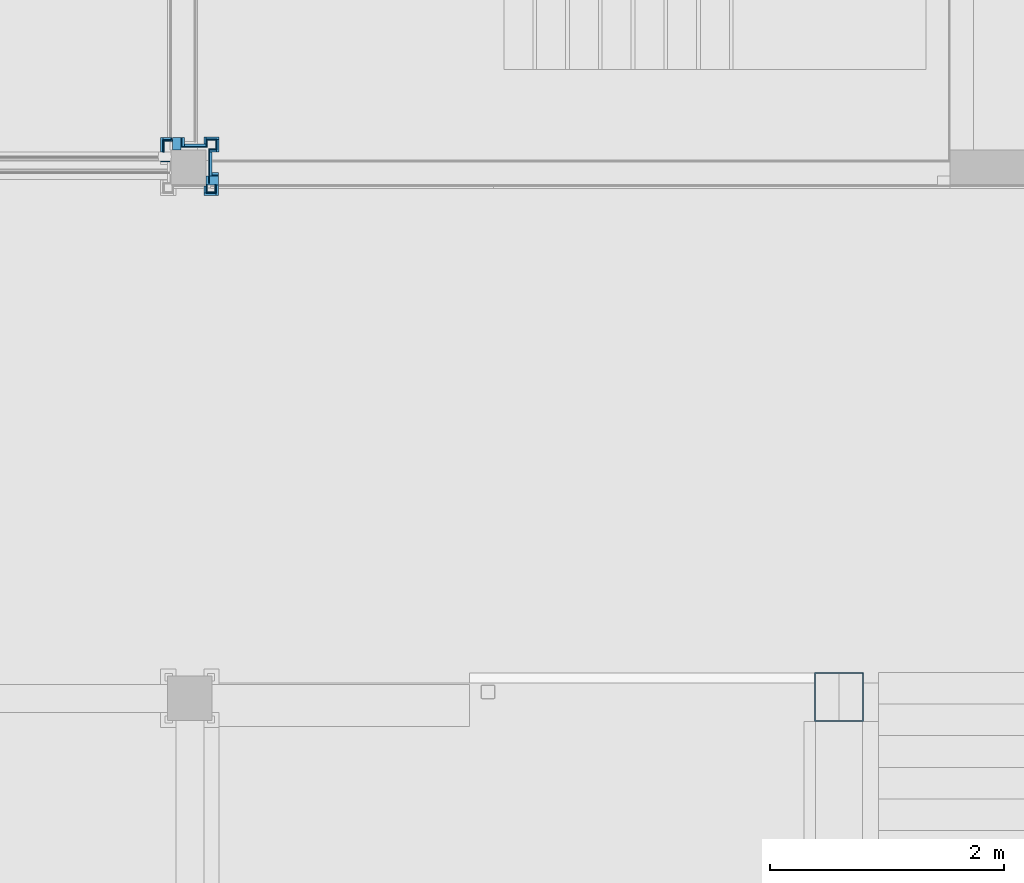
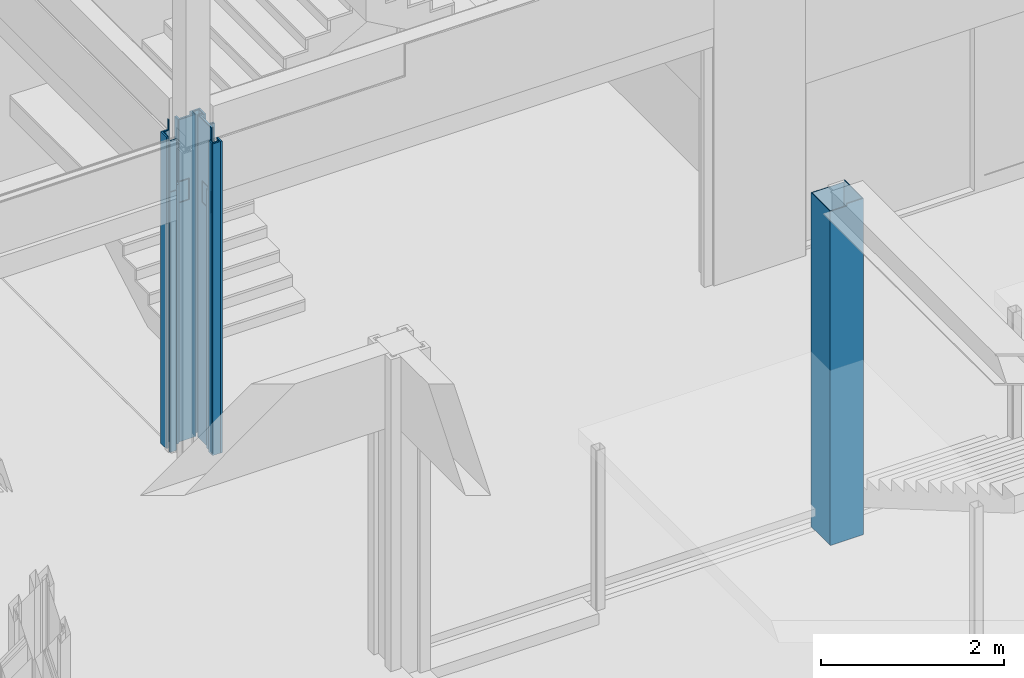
# One storey, part 144 of 260: 28 building element parts, 2 discrete accessories, 15 elements without a shape of their own.
"""IFC2X3 building model written with IfcOpenShell, lengths in millimetres."""

from ifc_helpers import new_model, entity, si_unit, converted_unit, derived_unit, money_unit, direction, frame, origin_with_axes, place, context, subcontext, project, spatial, faceted_brep, material, type_object, element, aggregate, save


model = new_model("IFC2X3")

# Units and contexts
model_context = context("Model", 3, precision=0.01, world=origin_with_axes(), true_north=direction((0.0, 1.0)))
body_context = subcontext(model_context, "Body", "Model", "MODEL_VIEW")
ifc_project = project(units=[si_unit("LENGTHUNIT", "METRE", prefix="MILLI"), si_unit("AREAUNIT", "SQUARE_METRE"), si_unit("VOLUMEUNIT", "CUBIC_METRE"), converted_unit("PLANEANGLEUNIT", "DEGREE", entity("IfcPlaneAngleMeasure", 0.0174532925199), si_unit("PLANEANGLEUNIT", "RADIAN"), dimensions=[0, 0, 0, 0, 0, 0, 0]), money_unit("EUR"), converted_unit("TIMEUNIT", "Year", entity("IfcTimeMeasure", 31556926.0), si_unit("TIMEUNIT", "SECOND"), dimensions=[0, 0, 1, 0, 0, 0, 0]), si_unit("MASSUNIT", "GRAM", prefix="KILO"), si_unit("THERMODYNAMICTEMPERATUREUNIT", "DEGREE_CELSIUS"), si_unit("LUMINOUSINTENSITYUNIT", "LUMEN"), si_unit("ENERGYUNIT", "JOULE", prefix="MEGA"), derived_unit("THERMALCONDUCTANCEUNIT", [(si_unit("POWERUNIT", "WATT"), 1), (si_unit("LENGTHUNIT", "METRE"), -1), (si_unit("THERMODYNAMICTEMPERATUREUNIT", "KELVIN"), -1)]), derived_unit("SPECIFICHEATCAPACITYUNIT", [(si_unit("ENERGYUNIT", "JOULE"), 1), (si_unit("MASSUNIT", "GRAM", prefix="KILO"), -1), (si_unit("THERMODYNAMICTEMPERATUREUNIT", "KELVIN"), -1)]), derived_unit("MASSDENSITYUNIT", [(si_unit("MASSUNIT", "GRAM", prefix="KILO"), 1), (si_unit("VOLUMEUNIT", "CUBIC_METRE"), -1)])], contexts=[model_context])

# Site, building, storey
site_placement = place(None, origin_with_axes())
site = spatial("IfcSite", under=ifc_project, at=site_placement, Name="Kolde pst 67a", CompositionType="ELEMENT")
building_placement = place(site_placement, origin_with_axes())
building = spatial("IfcBuilding", under=site, at=building_placement, Name="Riigigümnaasium", CompositionType="ELEMENT")
storey_placement = place(building_placement, origin_with_axes())
storey = spatial("IfcBuildingStorey", under=building, at=storey_placement, Name="1. korrus", CompositionType="ELEMENT", Elevation=0.0)

# Discrete accessories
ifc_material_1 = material(Name="_METALL - teras")
discrete_accessory_type = type_object("IfcDiscreteAccessoryType", Name="_METALL - teras 74 x 105")
discrete_accessory_1_placement = place(storey_placement, frame((52972.4941222, 28656.999656, 0.0), z_axis=(0.0, 0.0, 1.0), x_axis=(0.0, -1.0, 0.0)))
element("IfcDiscreteAccessory", 1, at=discrete_accessory_1_placement, inside=storey, type_object=discrete_accessory_type, material=ifc_material_1, Name="Tuletõkke kardin", context=body_context, shape_type="Brep", body=[
    faceted_brep([(-37.0, -52.5, 3470.0), (-37.0, -52.5, 0.0), (37.0, -52.5, 0.0), (37.0, -52.5, 3470.0), (-37.0, 52.5, 3470.0), (-37.0, 52.5, 0.0), (37.0, 52.5, 0.0), (37.0, 52.5, 3470.0)], [[[0, 1, 2, 3]], [[4, 5, 1, 0]], [[2, 1, 5, 6]], [[3, 2, 6, 7]], [[4, 0, 3, 7]], [[7, 6, 5, 4]]]),
])
discrete_accessory_2_placement = place(storey_placement, frame((52666.9941222, 28972.499656, 0.0), z_axis=(0.0, 0.0, 1.0), x_axis=(1.0, 0.0, 0.0)))
element("IfcDiscreteAccessory", 2, at=discrete_accessory_2_placement, inside=storey, type_object=discrete_accessory_type, material=ifc_material_1, Name="Tuletõkke kardin", context=body_context, shape_type="Brep", body=[
    faceted_brep([(37.0, 52.5, 3470.0), (37.0, 52.5, 0.0), (-37.0, 52.5, 0.0), (-37.0, 52.5, 3470.0), (37.0, -52.5, 3470.0), (37.0, -52.5, 0.0), (-37.0, -52.5, 0.0), (-37.0, -52.5, 3470.0)], [[[0, 1, 2, 3]], [[4, 5, 1, 0]], [[2, 1, 5, 6]], [[3, 2, 6, 7]], [[4, 0, 3, 7]], [[7, 6, 5, 4]]]),
])

# Column, building element part
column_type = type_object("IfcColumnType", Name="_KANDETARIND - raudbetoon C25/30 vastavalt EK osale 420 x 420", PredefinedType="COLUMN")
column_placement = place(storey_placement, frame((58329.9488577, 24240.2738336, -300.0), z_axis=(0.0, 0.0, 1.0), x_axis=(1.0, 0.0, 0.0)))
column = element("IfcColumn", 3, at=column_placement, inside=storey, type_object=column_type, Name="POST", ObjectType="COLUMN")
ifc_material_2 = material(Name="_VIIMISTLUSKIHT - puit")
building_element_part_1_placement = place(column_placement, origin_with_axes())
building_element_part_1 = element("IfcBuildingElementPart", 4, at=building_element_part_1_placement, material=ifc_material_2, Name="_VIIMISTLUSKIHT - puit", context=body_context, shape_type="Brep", body=[
    faceted_brep([(-210.0, 210.0, 4470.0), (210.0, 210.0, 4470.0), (210.0, 210.0, 0.0), (-210.0, 210.0, 0.0), (210.0, 199.726141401, 4470.0), (-210.0, -210.0, 4470.0), (1.90022433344e-05, -210.0, 4470.0), (1.90022433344e-05, -199.999997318, 4470.0), (-199.999997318, -199.999997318, 4470.0), (-199.999997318, 199.999997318, 4470.0), (199.999997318, 199.999997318, 4470.0), (199.999997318, 199.726141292, 4470.0), (210.0, 199.726217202, 4500.0), (210.0, -210.0, 4500.0), (210.0, -210.0, 0.0), (-210.0, -210.0, 0.0), (-199.999997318, 199.999997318, 0.0), (-199.999997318, -199.999997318, 0.0), (199.999997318, -199.999997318, 0.0), (199.999997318, 199.999997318, 0.0), (8.10390758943e-05, -210.0, 4500.0), (8.10855809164e-05, -199.999997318, 4500.0), (199.999997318, -199.999997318, 4500.0), (199.999997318, 199.726217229, 4500.0)], [[[0, 1, 2, 3]], [[4, 1, 0, 5, 6, 7, 8, 9, 10, 11]], [[4, 12, 13, 14, 2, 1]], [[15, 3, 2, 14], [16, 17, 18, 19]], [[5, 0, 3, 15]], [[6, 5, 15, 14, 13, 20]], [[20, 21, 7, 6]], [[7, 21, 22, 18, 17, 8]], [[9, 8, 17, 16]], [[10, 9, 16, 19]], [[11, 10, 19, 18, 22, 23]], [[23, 12, 4, 11]], [[21, 20, 13, 12, 23, 22]]]),
])
aggregate(column, [building_element_part_1])

# Wall, building element parts
wall_type = type_object("IfcWallType", Name="SS-MK-1/1_1x dold pinnakiht 30", PredefinedType="NOTDEFINED")
wall_1_placement = place(storey_placement, frame((52929.9941247, 28559.999656, 0.0), z_axis=(0.0, 0.0, 1.0), x_axis=(0.0, 1.0, 0.0)))
wall_1 = element("IfcWall", 5, at=wall_1_placement, inside=storey, type_object=wall_type, Name="Sisesein")
ifc_material_3 = material(Name="_VIIMISTLUSKIHT - Dold plaat vastavalt SA osale")
building_element_part_2_placement = place(wall_1_placement, origin_with_axes())
building_element_part_2 = element("IfcBuildingElementPart", 6, at=building_element_part_2_placement, material=ifc_material_3, Name="_VIIMISTLUSKIHT - Dold plaat vastavalt SA osale", context=body_context, shape_type="Brep", body=[
    faceted_brep([(50.0, 30.0, 0.0), (50.0, 30.0, 4170.0), (50.0, 10.0, 4170.0), (50.0, 10.0, 0.0), (-10.0, 30.0, 0.0), (-10.0, 30.0, 4170.0), (-10.0, 10.0, 4170.0), (-10.0, 10.0, 0.0)], [[[0, 1, 2, 3]], [[4, 5, 1, 0]], [[5, 6, 2, 1]], [[3, 2, 6, 7]], [[4, 0, 3, 7]], [[7, 6, 5, 4]]]),
])
ifc_material_4 = material(Name="_KARKASS - eriprofiilkinnitus vastavalt sisemisele plaatviimistlusele")
building_element_part_3_placement = place(wall_1_placement, origin_with_axes())
building_element_part_3 = element("IfcBuildingElementPart", 7, at=building_element_part_3_placement, material=ifc_material_4, Name="_KARKASS - eriprofiilkinnitus vastavalt sisemisele plaatviimistlusele", context=body_context, shape_type="Brep", body=[
    faceted_brep([(45.0000013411, 0.0, 3200.0), (34.999999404, 0.0, 3200.0), (34.999999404, 0.0, 3490.0), (60.0, 0.0, 3490.0), (60.0, 0.0, 4170.0), (0.0, 0.0, 4170.0), (0.0, 0.0, 0.0), (60.0, 0.0, 0.0), (60.0, 0.0, 3479.99999806), (45.0000013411, 0.0, 3479.99999806), (34.999999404, 10.0000025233, 3200.0), (45.0000013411, 10.0000025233, 3200.0), (34.999999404, 10.0000025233, 3490.0), (60.0, 10.0000025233, 3490.0), (60.0, 10.0, 4170.0), (0.0, 10.0, 4170.0), (0.0, 10.0, 0.0), (60.0, 10.0, 0.0), (60.0, 10.0000025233, 3479.99999806), (45.0000013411, 10.0000025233, 3479.99999806)], [[[0, 1, 2, 3, 4, 5, 6, 7, 8, 9]], [[10, 1, 0, 11]], [[12, 2, 1, 10]], [[12, 13, 3, 2]], [[4, 3, 13, 14]], [[14, 15, 5, 4]], [[16, 6, 5, 15]], [[6, 16, 17, 7]], [[17, 18, 8, 7]], [[19, 9, 8, 18]], [[11, 0, 9, 19]], [[11, 19, 18, 17, 16, 15, 14, 13, 12, 10]]]),
])
aggregate(wall_1, [building_element_part_2, building_element_part_3])

wall_2_placement = place(storey_placement, frame((52994.9941222, 28559.999656, 0.0), z_axis=(0.0, 0.0, 1.0), x_axis=(-1.0, 0.0, 0.0)))
wall_2 = element("IfcWall", 8, at=wall_2_placement, inside=storey, type_object=wall_type, Name="Sisesein")
building_element_part_4_placement = place(wall_2_placement, origin_with_axes())
building_element_part_4 = element("IfcBuildingElementPart", 9, at=building_element_part_4_placement, material=ifc_material_3, Name="_VIIMISTLUSKIHT - Dold plaat vastavalt SA osale", context=body_context, shape_type="Brep", body=[
    faceted_brep([(94.9999974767, 10.0, 4170.0), (-10.0, 10.0, 4170.0), (-10.0, 10.0, 0.0), (94.9999974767, 10.0, 0.0), (-10.0, 30.0, 4170.0), (94.9999974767, 30.0, 4170.0), (-10.0, 30.0, 0.0), (94.9999974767, 30.0, 0.0)], [[[0, 1, 2, 3]], [[4, 1, 0, 5]], [[1, 4, 6, 2]], [[7, 3, 2, 6]], [[5, 0, 3, 7]], [[4, 5, 7, 6]]]),
])
building_element_part_5_placement = place(wall_2_placement, origin_with_axes())
building_element_part_5 = element("IfcBuildingElementPart", 10, at=building_element_part_5_placement, material=ifc_material_4, Name="_KARKASS - eriprofiilkinnitus vastavalt sisemisele plaatviimistlusele", context=body_context, shape_type="Brep", body=[
    faceted_brep([(74.9999974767, 0.0, 4170.0), (0.0, 0.0, 4170.0), (0.0, 0.0, 0.0), (74.9999974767, 0.0, 0.0), (0.0, 10.0, 4170.0), (74.9999974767, 10.0, 4170.0), (0.0, 10.0, 0.0), (74.9999974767, 10.0, 0.0)], [[[0, 1, 2, 3]], [[4, 1, 0, 5]], [[1, 4, 6, 2]], [[7, 3, 2, 6]], [[5, 0, 3, 7]], [[4, 5, 7, 6]]]),
])
aggregate(wall_2, [building_element_part_4, building_element_part_5])

wall_3_placement = place(storey_placement, frame((52994.9941222, 28619.999656, 0.0), z_axis=(0.0, 0.0, 1.0), x_axis=(0.0, -1.0, 0.0)))
wall_3 = element("IfcWall", 11, at=wall_3_placement, inside=storey, type_object=wall_type, Name="Sisesein")
building_element_part_6_placement = place(wall_3_placement, origin_with_axes())
building_element_part_6 = element("IfcBuildingElementPart", 12, at=building_element_part_6_placement, material=ifc_material_3, Name="_VIIMISTLUSKIHT - Dold plaat vastavalt SA osale", context=body_context, shape_type="Brep", body=[
    faceted_brep([(14.9999986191, 30.0, 3200.0), (25.0000005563, 30.0, 3200.0), (25.0000005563, 30.0, 3490.0), (-3.32960325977e-08, 30.0, 3490.0), (-3.97832877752e-08, 30.0, 4170.0), (89.9999999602, 30.0, 4170.0), (89.9999999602, 30.0, 0.0), (0.0, 30.0, 0.0), (-3.32001093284e-08, 30.0, 3479.99999806), (14.9999986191, 30.0, 3479.99999806), (25.0000005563, 10.0, 3200.0), (14.9999986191, 10.0, 3200.0), (25.0000005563, 10.0, 3490.0), (-3.32960325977e-08, 10.0, 3490.0), (-3.97832877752e-08, 10.0, 4170.0), (89.9999999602, 10.0, 4170.0), (89.9999999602, 10.0, 0.0), (0.0, 10.0, 0.0), (-3.32001093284e-08, 10.0, 3479.99999806), (14.9999986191, 10.0, 3479.99999806)], [[[0, 1, 2, 3, 4, 5, 6, 7, 8, 9]], [[10, 1, 0, 11]], [[12, 2, 1, 10]], [[12, 13, 3, 2]], [[4, 3, 13, 14]], [[14, 15, 5, 4]], [[16, 6, 5, 15]], [[17, 7, 6, 16]], [[17, 18, 8, 7]], [[19, 9, 8, 18]], [[11, 0, 9, 19]], [[11, 19, 18, 17, 16, 15, 14, 13, 12, 10]]]),
])
building_element_part_7_placement = place(wall_3_placement, origin_with_axes())
building_element_part_7 = element("IfcBuildingElementPart", 13, at=building_element_part_7_placement, material=ifc_material_4, Name="_KARKASS - eriprofiilkinnitus vastavalt sisemisele plaatviimistlusele", context=body_context, shape_type="Brep", body=[
    faceted_brep([(14.9999986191, 10.0, 3200.0), (25.0000005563, 10.0, 3200.0), (25.0000005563, 10.0, 3490.0), (-3.32960325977e-08, 10.0, 3490.0), (-3.97832877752e-08, 10.0, 4170.0), (69.9999999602, 10.0, 4170.0), (69.9999999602, 10.0, 0.0), (0.0, 10.0, 0.0), (-3.32001093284e-08, 10.0, 3479.99999806), (14.9999986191, 10.0, 3479.99999806), (25.0000005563, 0.0, 3200.0), (14.9999986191, 0.0, 3200.0), (25.0000005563, 0.0, 3490.0), (-3.32960325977e-08, 0.0, 3490.0), (-3.97832877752e-08, 0.0, 4170.0), (69.9999999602, 0.0, 4170.0), (69.9999999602, 0.0, 0.0), (0.0, 0.0, 0.0), (-3.32001093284e-08, 0.0, 3479.99999806), (14.9999986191, 0.0, 3479.99999806)], [[[0, 1, 2, 3, 4, 5, 6, 7, 8, 9]], [[10, 1, 0, 11]], [[12, 2, 1, 10]], [[12, 13, 3, 2]], [[4, 3, 13, 14]], [[14, 15, 5, 4]], [[16, 6, 5, 15]], [[17, 7, 6, 16]], [[17, 18, 8, 7]], [[19, 9, 8, 18]], [[11, 0, 9, 19]], [[11, 19, 18, 17, 16, 15, 14, 13, 12, 10]]]),
])
aggregate(wall_3, [building_element_part_6, building_element_part_7])

wall_4_placement = place(storey_placement, frame((52939.9892227, 28693.999656, 0.0), z_axis=(0.0, 0.0, 1.0), x_axis=(1.0, 0.0, 0.0)))
wall_4 = element("IfcWall", 14, at=wall_4_placement, inside=storey, type_object=wall_type, Name="Sisesein")
building_element_part_8_placement = place(wall_4_placement, origin_with_axes())
building_element_part_8 = element("IfcBuildingElementPart", 15, at=building_element_part_8_placement, material=ifc_material_3, Name="_VIIMISTLUSKIHT - Dold plaat vastavalt SA osale", context=body_context, shape_type="Brep", body=[
    faceted_brep([(30.0, 30.0, 3200.0), (85.0048994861, 30.0, 3200.0), (85.0048994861, 30.0, 0.0), (30.0, 30.0, 0.0), (85.0048994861, 10.0, 3200.0), (30.0, 10.0, 3200.0), (85.0048994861, 10.0, 0.0), (30.0, 10.0, 0.0)], [[[0, 1, 2, 3]], [[4, 1, 0, 5]], [[1, 4, 6, 2]], [[3, 2, 6, 7]], [[5, 0, 3, 7]], [[4, 5, 7, 6]]]),
    faceted_brep([(85.0048994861, 30.0, 3479.99999806), (85.0048994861, 10.0, 3479.99999806), (85.0048994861, 10.0, 3210.00000194), (85.0048994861, 30.0, 3210.00000194), (30.0, 30.0, 3479.99999806), (30.0, 10.0, 3479.99999806), (30.0, 10.0, 3210.00000194), (30.0, 30.0, 3210.00000194)], [[[0, 1, 2, 3]], [[1, 0, 4, 5]], [[1, 5, 6, 2]], [[7, 3, 2, 6]], [[4, 0, 3, 7]], [[5, 4, 7, 6]]]),
    faceted_brep([(85.0048994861, 10.0, 3490.0), (85.0048994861, 30.0, 3490.0), (85.0048994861, 30.0, 4310.0), (85.0048994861, 10.0, 4310.0), (30.0, 30.0, 3490.0), (30.0, 10.0, 3490.0), (30.0, 30.0, 4310.0), (30.0, 10.0, 4310.0)], [[[0, 1, 2, 3]], [[4, 1, 0, 5]], [[1, 4, 6, 2]], [[7, 3, 2, 6]], [[5, 0, 3, 7]], [[4, 5, 7, 6]]]),
])
building_element_part_9_placement = place(wall_4_placement, origin_with_axes())
building_element_part_9 = element("IfcBuildingElementPart", 16, at=building_element_part_9_placement, material=ifc_material_4, Name="_KARKASS - eriprofiilkinnitus vastavalt sisemisele plaatviimistlusele", context=body_context, shape_type="Brep", body=[
    faceted_brep([(30.0, 10.0, 3200.0), (85.0048994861, 10.0, 3200.0), (85.0048994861, 10.0, 0.0), (30.0, 10.0, 0.0), (85.0048994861, 0.0, 3200.0), (30.0, 0.0, 3200.0), (85.0048994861, 0.0, 0.0), (30.0, 0.0, 0.0)], [[[0, 1, 2, 3]], [[4, 1, 0, 5]], [[1, 4, 6, 2]], [[3, 2, 6, 7]], [[5, 0, 3, 7]], [[4, 5, 7, 6]]]),
    faceted_brep([(85.0048994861, 10.0, 3479.99999806), (85.0048994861, 0.0, 3479.99999806), (85.0048994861, 0.0, 3210.00000194), (85.0048994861, 10.0, 3210.00000194), (30.0, 10.0, 3479.99999806), (30.0, 0.0, 3479.99999806), (30.0, 0.0, 3210.00000194), (30.0, 10.0, 3210.00000194)], [[[0, 1, 2, 3]], [[1, 0, 4, 5]], [[1, 5, 6, 2]], [[7, 3, 2, 6]], [[4, 0, 3, 7]], [[5, 4, 7, 6]]]),
    faceted_brep([(85.0048994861, 0.0, 3490.0), (85.0048994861, 10.0, 3490.0), (85.0048994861, 10.0, 4310.0), (85.0048994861, 0.0, 4310.0), (30.0, 10.0, 3490.0), (30.0, 0.0, 3490.0), (30.0, 10.0, 4310.0), (30.0, 0.0, 4310.0)], [[[0, 1, 2, 3]], [[4, 1, 0, 5]], [[1, 4, 6, 2]], [[7, 3, 2, 6]], [[5, 0, 3, 7]], [[4, 5, 7, 6]]]),
])
aggregate(wall_4, [building_element_part_8, building_element_part_9])

wall_5_placement = place(storey_placement, frame((52939.9892227, 28929.9996565, 0.0), z_axis=(0.0, 0.0, 1.0), x_axis=(0.0, -1.0, 0.0)))
wall_5 = element("IfcWall", 17, at=wall_5_placement, inside=storey, type_object=wall_type, Name="Sisesein")
building_element_part_10_placement = place(wall_5_placement, origin_with_axes())
building_element_part_10 = element("IfcBuildingElementPart", 18, at=building_element_part_10_placement, material=ifc_material_3, Name="_VIIMISTLUSKIHT - Dold plaat vastavalt SA osale", context=body_context, shape_type="Brep", body=[
    faceted_brep([(236.000000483, 10.0, 3200.0), (236.000000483, 30.0, 3200.0), (100.000000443, 30.0, 3200.0), (100.000000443, 10.0, 3200.0), (236.000000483, 30.0, 0.0), (236.000000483, 10.0, 0.0), (30.0000004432, 30.0, 0.0), (30.0000004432, 30.0, 4310.0), (299.999999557, 30.0, 4310.0), (299.999999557, 30.0, 3490.0), (100.000000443, 30.0, 3490.0), (100.000000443, 10.0, 3490.0), (299.999999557, 10.0, 3490.0), (299.999999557, 10.0, 4310.0), (30.0000001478, 10.0, 4310.0), (30.0000001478, 10.0, 0.0)], [[[0, 1, 2, 3]], [[4, 1, 0, 5]], [[1, 4, 6, 7, 8, 9, 10, 2]], [[3, 2, 10, 11]], [[5, 0, 3, 11, 12, 13, 14, 15]], [[4, 5, 15, 6]], [[14, 7, 6, 15]], [[7, 14, 13, 8]], [[13, 12, 9, 8]], [[11, 10, 9, 12]]]),
    faceted_brep([(236.000000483, 30.0, 3470.0), (236.000000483, 30.0, 3210.00000194), (110.00000238, 30.0, 3210.00000194), (110.00000238, 30.0, 3479.99999806), (299.999999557, 30.0, 3479.99999806), (299.999999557, 30.0, 3470.0), (236.000000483, 10.0, 3470.0), (236.000000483, 10.0, 3210.00000194), (110.00000238, 10.0, 3210.00000194), (110.00000238, 10.0, 3479.99999806), (299.999999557, 10.0, 3479.99999806), (299.999999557, 10.0, 3470.0)], [[[0, 1, 2, 3, 4, 5]], [[1, 0, 6, 7]], [[1, 7, 8, 2]], [[9, 3, 2, 8]], [[10, 4, 3, 9]], [[11, 5, 4, 10]], [[0, 5, 11, 6]], [[6, 11, 10, 9, 8, 7]]]),
])
building_element_part_11_placement = place(wall_5_placement, origin_with_axes())
building_element_part_11 = element("IfcBuildingElementPart", 19, at=building_element_part_11_placement, material=ifc_material_4, Name="_KARKASS - eriprofiilkinnitus vastavalt sisemisele plaatviimistlusele", context=body_context, shape_type="Brep", body=[
    faceted_brep([(236.000000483, 0.0, 3200.0), (236.000000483, 10.0, 3200.0), (100.000000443, 10.0, 3200.0), (100.000000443, 0.0, 3200.0), (236.000000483, 10.0, 0.0), (236.000000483, 0.0, 0.0), (10.0000001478, 10.0, 0.0), (10.0000001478, 10.0, 4310.0), (299.999999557, 10.0, 4310.0), (299.999999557, 10.0, 3490.0), (100.000000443, 10.0, 3490.0), (100.000000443, 0.0, 3490.0), (299.999999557, 0.0, 3490.0), (299.999999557, 0.0, 4310.0), (10.0, 0.0, 4310.0), (10.0, 0.0, 0.0)], [[[0, 1, 2, 3]], [[4, 1, 0, 5]], [[1, 4, 6, 7, 8, 9, 10, 2]], [[3, 2, 10, 11]], [[5, 0, 3, 11, 12, 13, 14, 15]], [[4, 5, 15, 6]], [[14, 7, 6, 15]], [[7, 14, 13, 8]], [[13, 12, 9, 8]], [[11, 10, 9, 12]]]),
    faceted_brep([(236.000000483, 10.0, 3470.0), (236.000000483, 10.0, 3210.00000194), (110.00000238, 10.0, 3210.00000194), (110.00000238, 10.0, 3479.99999806), (299.999999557, 10.0, 3479.99999806), (299.999999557, 10.0, 3470.0), (236.000000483, 0.0, 3470.0), (236.000000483, 0.0, 3210.00000194), (110.00000238, 0.0, 3210.00000194), (110.00000238, 0.0, 3479.99999806), (299.999999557, 0.0, 3479.99999806), (299.999999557, 0.0, 3470.0)], [[[0, 1, 2, 3, 4, 5]], [[1, 0, 6, 7]], [[1, 7, 8, 2]], [[9, 3, 2, 8]], [[10, 4, 3, 9]], [[11, 5, 4, 10]], [[0, 5, 11, 6]], [[6, 11, 10, 9, 8, 7]]]),
])
aggregate(wall_5, [building_element_part_10, building_element_part_11])

wall_6_placement = place(storey_placement, frame((52999.9941256, 28929.9996556, 0.0), z_axis=(0.0, 0.0, 1.0), x_axis=(-1.0, 1.47748841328e-08, 0.0)))
wall_6 = element("IfcWall", 20, at=wall_6_placement, inside=storey, type_object=wall_type, Name="Sisesein")
building_element_part_12_placement = place(wall_6_placement, origin_with_axes())
building_element_part_12 = element("IfcBuildingElementPart", 21, at=building_element_part_12_placement, material=ifc_material_3, Name="_VIIMISTLUSKIHT - Dold plaat vastavalt SA osale", context=body_context, shape_type="Brep", body=[
    faceted_brep([(50.0049027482, 10.0000007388, 0.0), (-10.0000001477, 9.99999985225, 0.0), (-10.0000004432, 29.9999998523, 0.0), (50.0049024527, 30.0000007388, 0.0), (50.0049027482, 10.0000007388, 4310.0), (-10.0000001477, 9.99999985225, 4310.0), (-10.0000004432, 29.9999998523, 4310.0), (50.0049024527, 30.0000007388, 4310.0)], [[[0, 1, 2, 3]], [[4, 5, 1, 0]], [[2, 1, 5, 6]], [[3, 2, 6, 7]], [[3, 7, 4, 0]], [[7, 6, 5, 4]]]),
])
building_element_part_13_placement = place(wall_6_placement, origin_with_axes())
building_element_part_13 = element("IfcBuildingElementPart", 22, at=building_element_part_13_placement, material=ifc_material_4, Name="_KARKASS - eriprofiilkinnitus vastavalt sisemisele plaatviimistlusele", context=body_context, shape_type="Brep", body=[
    faceted_brep([(60.0049028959, 8.8656548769e-07, 0.0), (0.0, 0.0, 0.0), (-1.47750256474e-07, 10.0, 0.0), (60.0049027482, 10.0000008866, 0.0), (60.0049028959, 8.8656548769e-07, 4310.0), (0.0, 0.0, 4310.0), (-1.47750256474e-07, 10.0, 4310.0), (60.0049027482, 10.0000008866, 4310.0)], [[[0, 1, 2, 3]], [[4, 5, 1, 0]], [[2, 1, 5, 6]], [[3, 2, 6, 7]], [[3, 7, 4, 0]], [[7, 6, 5, 4]]]),
])
aggregate(wall_6, [building_element_part_12, building_element_part_13])

wall_7_placement = place(storey_placement, frame((52999.9941256, 28999.999656, 0.0), z_axis=(0.0, 0.0, 1.0), x_axis=(0.0, -1.0, 0.0)))
wall_7 = element("IfcWall", 23, at=wall_7_placement, inside=storey, type_object=wall_type, Name="Sisesein")
building_element_part_14_placement = place(wall_7_placement, origin_with_axes())
building_element_part_14 = element("IfcBuildingElementPart", 24, at=building_element_part_14_placement, material=ifc_material_3, Name="_VIIMISTLUSKIHT - Dold plaat vastavalt SA osale", context=body_context, shape_type="Brep", body=[
    faceted_brep([(100.000000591, 10.0, 0.0), (-10.0, 10.0, 0.0), (-10.0, 30.0, 0.0), (100.000000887, 30.0, 0.0), (100.000000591, 10.0, 4310.0), (-10.0, 10.0, 4310.0), (-10.0, 30.0, 4310.0), (100.000000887, 30.0, 4310.0)], [[[0, 1, 2, 3]], [[4, 5, 1, 0]], [[2, 1, 5, 6]], [[3, 2, 6, 7]], [[3, 7, 4, 0]], [[7, 6, 5, 4]]]),
])
building_element_part_15_placement = place(wall_7_placement, origin_with_axes())
building_element_part_15 = element("IfcBuildingElementPart", 25, at=building_element_part_15_placement, material=ifc_material_4, Name="_KARKASS - eriprofiilkinnitus vastavalt sisemisele plaatviimistlusele", context=body_context, shape_type="Brep", body=[
    faceted_brep([(80.0000004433, 0.0, 0.0), (0.0, 0.0, 0.0), (0.0, 10.0, 0.0), (80.0000005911, 10.0, 0.0), (80.0000004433, 0.0, 4310.0), (0.0, 0.0, 4310.0), (0.0, 10.0, 4310.0), (80.0000005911, 10.0, 4310.0)], [[[0, 1, 2, 3]], [[4, 5, 1, 0]], [[2, 1, 5, 6]], [[3, 2, 6, 7]], [[3, 7, 4, 0]], [[7, 6, 5, 4]]]),
])
aggregate(wall_7, [building_element_part_14, building_element_part_15])

wall_8_placement = place(storey_placement, frame((52929.9941235, 28999.999656, 0.0), z_axis=(0.0, 0.0, 1.0), x_axis=(1.0, 0.0, 0.0)))
wall_8 = element("IfcWall", 26, at=wall_8_placement, inside=storey, type_object=wall_type, Name="Sisesein")
building_element_part_16_placement = place(wall_8_placement, origin_with_axes())
building_element_part_16 = element("IfcBuildingElementPart", 27, at=building_element_part_16_placement, material=ifc_material_3, Name="_VIIMISTLUSKIHT - Dold plaat vastavalt SA osale", context=body_context, shape_type="Brep", body=[
    faceted_brep([(100.000002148, 10.0, 0.0), (-9.99999957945, 10.0, 0.0), (-9.99999873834, 30.0, 0.0), (100.000002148, 30.0, 0.0), (100.000002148, 10.0, 4310.0), (-9.99999957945, 10.0, 4310.0), (-9.99999873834, 30.0, 4310.0), (100.000002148, 30.0, 4310.0)], [[[0, 1, 2, 3]], [[4, 5, 1, 0]], [[2, 1, 5, 6]], [[3, 2, 6, 7]], [[3, 7, 4, 0]], [[7, 6, 5, 4]]]),
])
building_element_part_17_placement = place(wall_8_placement, origin_with_axes())
building_element_part_17 = element("IfcBuildingElementPart", 28, at=building_element_part_17_placement, material=ifc_material_4, Name="_KARKASS - eriprofiilkinnitus vastavalt sisemisele plaatviimistlusele", context=body_context, shape_type="Brep", body=[
    faceted_brep([(80.0000021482, 0.0, 0.0), (0.0, 0.0, 0.0), (4.20548929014e-07, 10.0, 0.0), (80.0000021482, 10.0, 0.0), (80.0000021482, 0.0, 4310.0), (0.0, 0.0, 4310.0), (4.20548929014e-07, 10.0, 4310.0), (80.0000021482, 10.0, 4310.0)], [[[0, 1, 2, 3]], [[4, 5, 1, 0]], [[2, 1, 5, 6]], [[3, 2, 6, 7]], [[3, 7, 4, 0]], [[7, 6, 5, 4]]]),
])
aggregate(wall_8, [building_element_part_16, building_element_part_17])

wall_9_placement = place(storey_placement, frame((52929.9941209, 28939.999656, 0.0), z_axis=(0.0, 0.0, 1.0), x_axis=(4.2055129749e-08, 1.0, 0.0)))
wall_9 = element("IfcWall", 29, at=wall_9_placement, inside=storey, type_object=wall_type, Name="Sisesein")
building_element_part_18_placement = place(wall_9_placement, origin_with_axes())
building_element_part_18 = element("IfcBuildingElementPart", 30, at=building_element_part_18_placement, material=ifc_material_3, Name="_VIIMISTLUSKIHT - Dold plaat vastavalt SA osale", context=body_context, shape_type="Brep", body=[
    faceted_brep([(89.9999995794, 10.000003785, 0.0), (29.9999995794, 10.0000012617, 0.0), (29.9999987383, 30.0000012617, 0.0), (89.9999987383, 30.000003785, 0.0), (89.9999995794, 10.000003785, 4310.0), (29.9999995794, 10.0000012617, 4310.0), (29.9999987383, 30.0000012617, 4310.0), (89.9999987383, 30.000003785, 4310.0)], [[[0, 1, 2, 3]], [[4, 5, 1, 0]], [[2, 1, 5, 6]], [[3, 2, 6, 7]], [[3, 7, 4, 0]], [[7, 6, 5, 4]]]),
])
building_element_part_19_placement = place(wall_9_placement, origin_with_axes())
building_element_part_19 = element("IfcBuildingElementPart", 31, at=building_element_part_19_placement, material=ifc_material_4, Name="_KARKASS - eriprofiilkinnitus vastavalt sisemisele plaatviimistlusele", context=body_context, shape_type="Brep", body=[
    faceted_brep([(70.0, 2.94385671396e-06, 0.0), (10.0, 4.20548929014e-07, 0.0), (9.99999957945, 10.0000004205, 0.0), (69.9999995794, 10.0000029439, 0.0), (70.0, 2.94385671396e-06, 4310.0), (10.0, 4.20548929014e-07, 4310.0), (9.99999957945, 10.0000004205, 4310.0), (69.9999995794, 10.0000029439, 4310.0)], [[[0, 1, 2, 3]], [[4, 5, 1, 0]], [[2, 1, 5, 6]], [[3, 2, 6, 7]], [[3, 7, 4, 0]], [[7, 6, 5, 4]]]),
])
aggregate(wall_9, [building_element_part_18, building_element_part_19])

wall_10_placement = place(storey_placement, frame((52703.9941222, 28939.999656, 0.0), z_axis=(0.0, 0.0, 1.0), x_axis=(1.0, 0.0, 0.0)))
wall_10 = element("IfcWall", 32, at=wall_10_placement, inside=storey, type_object=wall_type, Name="Sisesein")
building_element_part_20_placement = place(wall_10_placement, origin_with_axes())
building_element_part_20 = element("IfcBuildingElementPart", 33, at=building_element_part_20_placement, material=ifc_material_3, Name="_VIIMISTLUSKIHT - Dold plaat vastavalt SA osale", context=body_context, shape_type="Brep", body=[
    faceted_brep([(130.999998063, 30.0, 3210.00000194), (30.0, 30.0, 3210.00000194), (30.0, 30.0, 3479.99999806), (130.999998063, 30.0, 3479.99999806), (130.999998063, 10.0, 3210.00000194), (30.0, 10.0, 3210.00000194), (30.0, 10.0, 3479.99999806), (130.999998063, 10.0, 3479.99999806)], [[[0, 1, 2, 3]], [[1, 0, 4, 5]], [[6, 2, 1, 5]], [[3, 2, 6, 7]], [[0, 3, 7, 4]], [[7, 6, 5, 4]]]),
    faceted_brep([(30.0, 30.0, 3200.0), (141.0, 30.0, 3200.0), (141.0, 30.0, 3490.0), (30.0, 30.0, 3490.0), (30.0, 30.0, 4310.0), (216.0, 30.0, 4310.0), (216.0, 30.0, 0.0), (30.0, 30.0, 0.0), (30.0, 10.0, 3200.0), (141.0, 10.0, 3200.0), (141.0, 10.0, 3490.0), (30.0, 10.0, 3490.0), (30.0, 10.0, 4310.0), (215.999999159, 10.0, 4310.0), (215.999999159, 10.0, 0.0), (30.0, 10.0, 0.0)], [[[0, 1, 2, 3, 4, 5, 6, 7]], [[1, 0, 8, 9]], [[2, 1, 9, 10]], [[3, 2, 10, 11]], [[3, 11, 12, 4]], [[13, 5, 4, 12]], [[14, 6, 5, 13]], [[6, 14, 15, 7]], [[8, 0, 7, 15]], [[9, 8, 15, 14, 13, 12, 11, 10]]]),
])
building_element_part_21_placement = place(wall_10_placement, origin_with_axes())
building_element_part_21 = element("IfcBuildingElementPart", 34, at=building_element_part_21_placement, material=ifc_material_4, Name="_KARKASS - eriprofiilkinnitus vastavalt sisemisele plaatviimistlusele", context=body_context, shape_type="Brep", body=[
    faceted_brep([(130.999998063, 10.0, 3210.00000194), (10.0, 10.0, 3210.00000194), (10.0, 10.0, 3479.99999806), (130.999998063, 10.0, 3479.99999806), (130.999998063, 0.0, 3210.00000194), (10.0, 0.0, 3210.00000194), (10.0, 0.0, 3479.99999806), (130.999998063, 0.0, 3479.99999806)], [[[0, 1, 2, 3]], [[1, 0, 4, 5]], [[6, 2, 1, 5]], [[3, 2, 6, 7]], [[0, 3, 7, 4]], [[7, 6, 5, 4]]]),
    faceted_brep([(10.0, 10.0, 3200.0), (141.0, 10.0, 3200.0), (141.0, 10.0, 3490.0), (10.0, 10.0, 3490.0), (10.0, 10.0, 4310.0), (225.999999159, 10.0, 4310.0), (225.999999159, 10.0, 0.0), (10.0, 10.0, 0.0), (10.0, 0.0, 3200.0), (141.0, 0.0, 3200.0), (141.0, 0.0, 3490.0), (10.0, 0.0, 3490.0), (10.0, 0.0, 4310.0), (225.999998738, 0.0, 4310.0), (225.999998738, 0.0, 0.0), (10.0, 0.0, 0.0)], [[[0, 1, 2, 3, 4, 5, 6, 7]], [[1, 0, 8, 9]], [[2, 1, 9, 10]], [[3, 2, 10, 11]], [[3, 11, 12, 4]], [[13, 5, 4, 12]], [[14, 6, 5, 13]], [[6, 14, 15, 7]], [[8, 0, 7, 15]], [[9, 8, 15, 14, 13, 12, 11, 10]]]),
])
aggregate(wall_10, [building_element_part_20, building_element_part_21])

wall_11_placement = place(storey_placement, frame((52703.9941222, 29024.999656, 0.0), z_axis=(0.0, 0.0, 1.0), x_axis=(0.0, -1.0, 0.0)))
wall_11 = element("IfcWall", 35, at=wall_11_placement, inside=storey, type_object=wall_type, Name="Sisesein")
building_element_part_22_placement = place(wall_11_placement, origin_with_axes())
building_element_part_22 = element("IfcBuildingElementPart", 36, at=building_element_part_22_placement, material=ifc_material_3, Name="_VIIMISTLUSKIHT - Dold plaat vastavalt SA osale", context=body_context, shape_type="Brep", body=[
    faceted_brep([(0.0, 10.0, 3200.0), (0.0, 30.0, 3200.0), (0.0, 30.0, 0.0), (0.0, 10.0, 0.0), (75.0, 30.0, 3200.0), (75.0, 10.0, 3200.0), (75.0, 30.0, 0.0), (75.0, 10.0, 0.0)], [[[0, 1, 2, 3]], [[4, 1, 0, 5]], [[1, 4, 6, 2]], [[6, 7, 3, 2]], [[5, 0, 3, 7]], [[4, 5, 7, 6]]]),
    faceted_brep([(0.0, 30.0, 3479.99999806), (75.0, 30.0, 3479.99999806), (75.0, 30.0, 3210.00000194), (0.0, 30.0, 3210.00000194), (0.0, 10.0, 3479.99999806), (75.0, 10.0, 3479.99999806), (75.0, 10.0, 3210.00000194), (0.0, 10.0, 3210.00000194)], [[[0, 1, 2, 3]], [[1, 0, 4, 5]], [[1, 5, 6, 2]], [[7, 3, 2, 6]], [[4, 0, 3, 7]], [[5, 4, 7, 6]]]),
    faceted_brep([(75.0, 30.0, 3490.0), (0.0, 30.0, 3490.0), (0.0, 30.0, 4310.0), (75.0, 30.0, 4310.0), (0.0, 10.0, 3490.0), (75.0, 10.0, 3490.0), (0.0, 10.0, 4310.0), (75.0, 10.0, 4310.0)], [[[0, 1, 2, 3]], [[4, 1, 0, 5]], [[1, 4, 6, 2]], [[7, 3, 2, 6]], [[5, 0, 3, 7]], [[4, 5, 7, 6]]]),
])
building_element_part_23_placement = place(wall_11_placement, origin_with_axes())
building_element_part_23 = element("IfcBuildingElementPart", 37, at=building_element_part_23_placement, material=ifc_material_4, Name="_KARKASS - eriprofiilkinnitus vastavalt sisemisele plaatviimistlusele", context=body_context, shape_type="Brep", body=[
    faceted_brep([(0.0, 0.0, 3200.0), (0.0, 10.0, 3200.0), (0.0, 10.0, 0.0), (0.0, 0.0, 0.0), (85.0, 10.0, 3200.0), (85.0, 0.0, 3200.0), (85.0, 10.0, 0.0), (85.0, 0.0, 0.0)], [[[0, 1, 2, 3]], [[4, 1, 0, 5]], [[1, 4, 6, 2]], [[6, 7, 3, 2]], [[5, 0, 3, 7]], [[4, 5, 7, 6]]]),
    faceted_brep([(0.0, 10.0, 3479.99999806), (85.0, 10.0, 3479.99999806), (85.0, 10.0, 3210.00000194), (0.0, 10.0, 3210.00000194), (0.0, 0.0, 3479.99999806), (85.0, 0.0, 3479.99999806), (85.0, 0.0, 3210.00000194), (0.0, 0.0, 3210.00000194)], [[[0, 1, 2, 3]], [[1, 0, 4, 5]], [[1, 5, 6, 2]], [[7, 3, 2, 6]], [[4, 0, 3, 7]], [[5, 4, 7, 6]]]),
    faceted_brep([(85.0, 10.0, 3490.0), (0.0, 10.0, 3490.0), (0.0, 10.0, 4310.0), (85.0, 10.0, 4310.0), (0.0, 0.0, 3490.0), (85.0, 0.0, 3490.0), (0.0, 0.0, 4310.0), (85.0, 0.0, 4310.0)], [[[0, 1, 2, 3]], [[4, 1, 0, 5]], [[1, 4, 6, 2]], [[7, 3, 2, 6]], [[5, 0, 3, 7]], [[4, 5, 7, 6]]]),
])
aggregate(wall_11, [building_element_part_22, building_element_part_23])

wall_12_placement = place(storey_placement, frame((52559.9941188, 28994.999656, 0.0), z_axis=(0.0, 0.0, 1.0), x_axis=(1.0, 0.0, 0.0)))
wall_12 = element("IfcWall", 38, at=wall_12_placement, inside=storey, type_object=wall_type, Name="Sisesein")
building_element_part_24_placement = place(wall_12_placement, origin_with_axes())
building_element_part_24 = element("IfcBuildingElementPart", 39, at=building_element_part_24_placement, material=ifc_material_3, Name="_VIIMISTLUSKIHT - Dold plaat vastavalt SA osale", context=body_context, shape_type="Brep", body=[
    faceted_brep([(69.662350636, 10.0, 3490.0), (69.662350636, 30.0, 3490.0), (69.662350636, 30.0, 4310.0), (69.662350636, 10.0, 4310.0), (50.0000028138, 30.0, 3490.0), (50.0000028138, 10.0, 3490.0), (60.000004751, 30.0, 3479.99999806), (69.662350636, 30.0, 3479.99999806), (69.662350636, 30.0, 0.0), (-10.0, 30.0, 0.0), (-10.0, 30.0, 4170.0), (59.0000034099, 30.0, 4170.0), (59.0000052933, 30.0, 4310.0), (50.0000028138, 30.0, 3200.0), (60.000004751, 30.0, 3200.0), (59.0000052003, 10.0, 4310.0), (59.0000034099, 10.0, 4170.0), (-10.0, 10.0, 4170.0), (-10.0, 10.0, 0.0), (69.662350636, 10.0, 0.0), (69.662350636, 10.0, 3479.99999806), (60.000004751, 10.0, 3479.99999806), (60.000004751, 10.0, 3200.0), (50.0000028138, 10.0, 3200.0)], [[[0, 1, 2, 3]], [[4, 1, 0, 5]], [[6, 7, 8, 9, 10, 11, 12, 2, 1, 4, 13, 14]], [[2, 12, 15, 3]], [[5, 0, 3, 15, 16, 17, 18, 19, 20, 21, 22, 23]], [[13, 4, 5, 23]], [[20, 7, 6, 21]], [[7, 20, 19, 8]], [[18, 9, 8, 19]], [[18, 17, 10, 9]], [[16, 11, 10, 17]], [[16, 15, 12, 11]], [[14, 13, 23, 22]], [[6, 14, 22, 21]]]),
])
building_element_part_25_placement = place(wall_12_placement, origin_with_axes())
building_element_part_25 = element("IfcBuildingElementPart", 40, at=building_element_part_25_placement, material=ifc_material_4, Name="_KARKASS - eriprofiilkinnitus vastavalt sisemisele plaatviimistlusele", context=body_context, shape_type="Brep", body=[
    faceted_brep([(69.662350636, 0.0, 3490.0), (69.662350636, 10.0, 3490.0), (69.662350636, 10.0, 4310.0), (69.662350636, 0.0, 4310.0), (50.0000028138, 10.0, 3490.0), (50.0000028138, 0.0, 3490.0), (60.000004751, 10.0, 3479.99999806), (69.662350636, 10.0, 3479.99999806), (69.662350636, 10.0, 0.0), (0.0, 10.0, 0.0), (0.0, 10.0, 4170.0), (59.0000034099, 10.0, 4170.0), (59.0000052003, 10.0, 4310.0), (50.0000028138, 10.0, 3200.0), (60.000004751, 10.0, 3200.0), (59.0000051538, 0.0, 4310.0), (59.0000034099, 0.0, 4170.0), (0.0, 0.0, 4170.0), (0.0, 0.0, 0.0), (69.662350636, 0.0, 0.0), (69.662350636, 0.0, 3479.99999806), (60.000004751, 0.0, 3479.99999806), (60.000004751, 0.0, 3200.0), (50.0000028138, 0.0, 3200.0)], [[[0, 1, 2, 3]], [[4, 1, 0, 5]], [[6, 7, 8, 9, 10, 11, 12, 2, 1, 4, 13, 14]], [[2, 12, 15, 3]], [[5, 0, 3, 15, 16, 17, 18, 19, 20, 21, 22, 23]], [[13, 4, 5, 23]], [[20, 7, 6, 21]], [[7, 20, 19, 8]], [[18, 9, 8, 19]], [[18, 17, 10, 9]], [[16, 11, 10, 17]], [[16, 15, 12, 11]], [[14, 13, 23, 22]], [[6, 14, 22, 21]]]),
])
aggregate(wall_12, [building_element_part_24, building_element_part_25])

wall_13_placement = place(storey_placement, frame((52559.9941188, 28899.9996552, 0.0), z_axis=(0.0, 0.0, 1.0), x_axis=(0.0, 1.0, 0.0)))
wall_13 = element("IfcWall", 41, at=wall_13_placement, inside=storey, type_object=wall_type, Name="Sisesein")
building_element_part_26_placement = place(wall_13_placement, origin_with_axes())
building_element_part_26 = element("IfcBuildingElementPart", 42, at=building_element_part_26_placement, material=ifc_material_3, Name="_VIIMISTLUSKIHT - Dold plaat vastavalt SA osale", context=body_context, shape_type="Brep", body=[
    faceted_brep([(125.000000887, 30.0, 0.0), (125.000000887, 30.0, 4170.0), (125.000000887, 10.0, 4170.0), (125.000000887, 10.0, 0.0), (0.0, 30.0, 0.0), (0.0, 30.0, 4170.0), (0.0, 10.0, 4170.0), (0.0, 10.0, 0.0)], [[[0, 1, 2, 3]], [[4, 5, 1, 0]], [[5, 6, 2, 1]], [[3, 2, 6, 7]], [[4, 0, 3, 7]], [[7, 6, 5, 4]]]),
])
building_element_part_27_placement = place(wall_13_placement, origin_with_axes())
building_element_part_27 = element("IfcBuildingElementPart", 43, at=building_element_part_27_placement, material=ifc_material_4, Name="_KARKASS - eriprofiilkinnitus vastavalt sisemisele plaatviimistlusele", context=body_context, shape_type="Brep", body=[
    faceted_brep([(105.000000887, 10.0, 0.0), (105.000000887, 10.0, 4170.0), (105.000000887, 0.0, 4170.0), (105.000000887, 0.0, 0.0), (0.0, 10.0, 0.0), (0.0, 10.0, 4170.0), (0.0, 0.0, 4170.0), (0.0, 0.0, 0.0)], [[[0, 1, 2, 3]], [[4, 5, 1, 0]], [[5, 6, 2, 1]], [[3, 2, 6, 7]], [[4, 0, 3, 7]], [[7, 6, 5, 4]]]),
])
aggregate(wall_13, [building_element_part_26, building_element_part_27])

# Wall, building element part
wall_14_placement = place(storey_placement, frame((52619.9941222, 28825.9996998, 0.0), z_axis=(0.0, 0.0, 1.0), x_axis=(-1.0, 0.0, 0.0)))
wall_14 = element("IfcWall", 44, at=wall_14_placement, inside=storey, type_object=wall_type, Name="Sisesein")
building_element_part_28_placement = place(wall_14_placement, origin_with_axes())
building_element_part_28 = element("IfcBuildingElementPart", 45, at=building_element_part_28_placement, material=ifc_material_4, Name="_KARKASS - eriprofiilkinnitus vastavalt sisemisele plaatviimistlusele", context=body_context, shape_type="Brep", body=[
    faceted_brep([(90.0000034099, 0.0, 3479.99999806), (10.0, 0.0, 3479.99999806), (10.0, 0.0, 0.0), (90.0000034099, 0.0, 0.0), (10.0, 10.0, 3479.99999806), (90.0000034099, 10.0, 3479.99999806), (10.0, 10.0, 0.0), (90.0000034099, 10.0, 0.0)], [[[0, 1, 2, 3]], [[4, 1, 0, 5]], [[1, 4, 6, 2]], [[2, 6, 7, 3]], [[5, 0, 3, 7]], [[4, 5, 7, 6]]]),
    faceted_brep([(10.0, 10.0, 3490.0), (10.0, 0.0, 3490.0), (10.0, 0.0, 4170.0), (10.0, 10.0, 4170.0), (90.0000034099, 0.0, 3490.0), (90.0000034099, 10.0, 3490.0), (90.0000034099, 0.0, 4170.0), (90.0000034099, 10.0, 4170.0)], [[[0, 1, 2, 3]], [[4, 1, 0, 5]], [[1, 4, 6, 2]], [[7, 3, 2, 6]], [[5, 0, 3, 7]], [[4, 5, 7, 6]]]),
])
aggregate(wall_14, [building_element_part_28])

save(model, "model.ifc")
